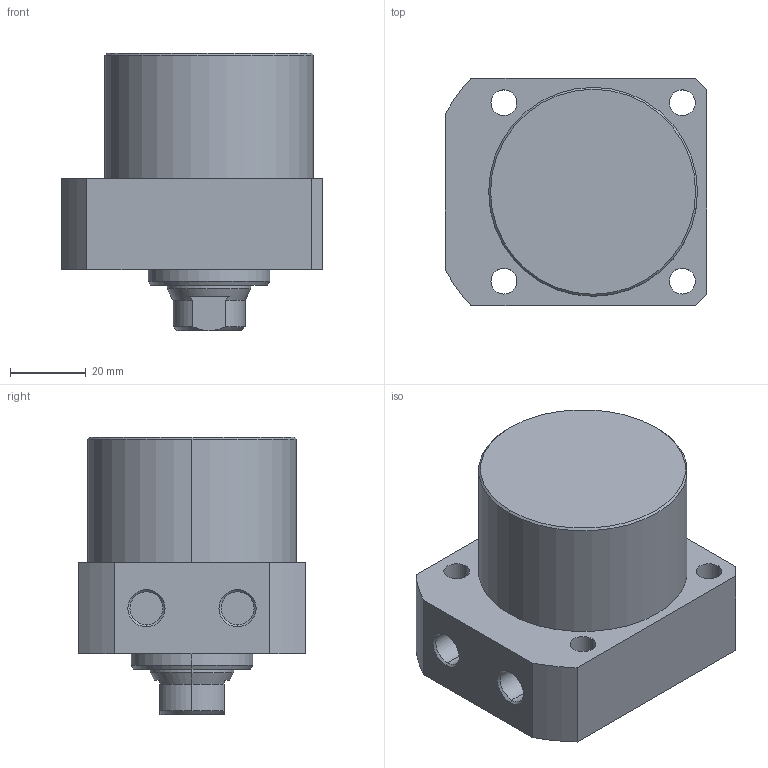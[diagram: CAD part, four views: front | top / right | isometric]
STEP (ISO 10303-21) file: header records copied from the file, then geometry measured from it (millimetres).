
FILE_DESCRIPTION (( 'STEP AP203' ), '1' );
FILE_NAME ('CLLR-055CA-020.STEP', '2019-12-19T07:21:57', ( '' ), ( '' ), 'SwSTEP 2.0', 'SolidWorks 2015', '' );
FILE_SCHEMA (( 'CONFIG_CONTROL_DESIGN' ));
Length unit declared in the file: millimetre
Products named in the file (1): CLLR-055CA-020
Bounding box: 69 x 60 x 73 mm (x, y, z)
Volume: 176039.2 mm3; surface area: 23884 mm2
Topology: 1 solids, 1 shells, 65 faces, 151 edges, 94 vertices
Faces by surface type: cylinder 29, plane 19, cone 17
Entity records: 1967 total; most frequent: CARTESIAN_POINT 349, DIRECTION 348, ORIENTED_EDGE 298, EDGE_CURVE 149, AXIS2_PLACEMENT_3D 141, VERTEX_POINT 94, EDGE_LOOP 81, CIRCLE 75
